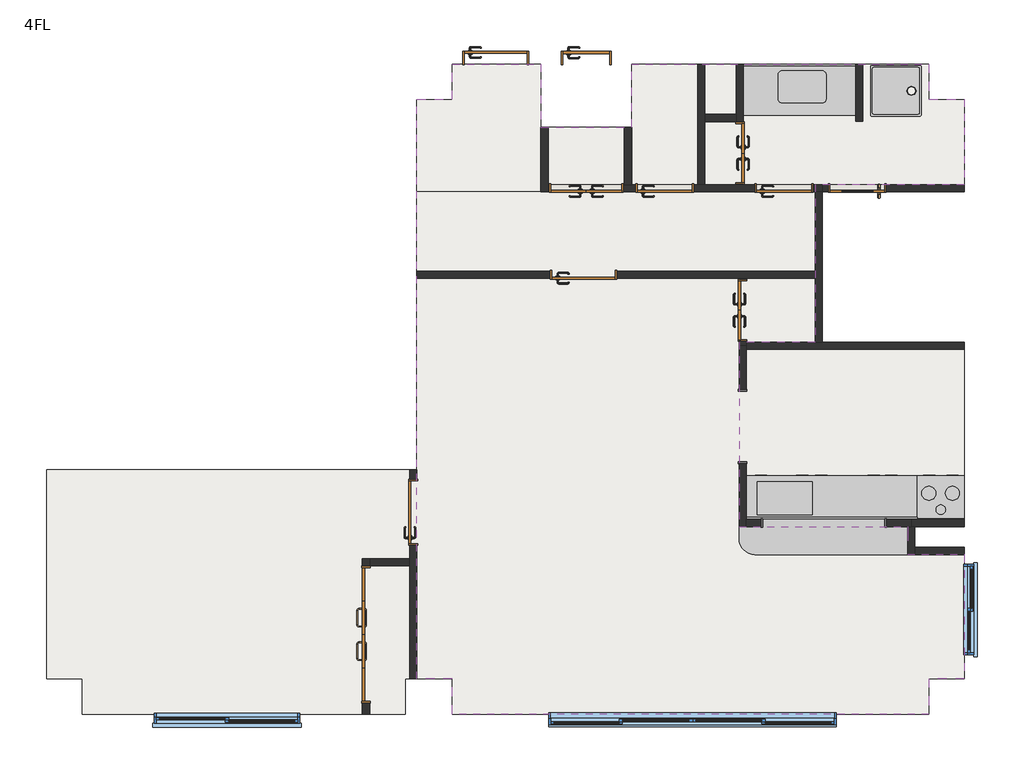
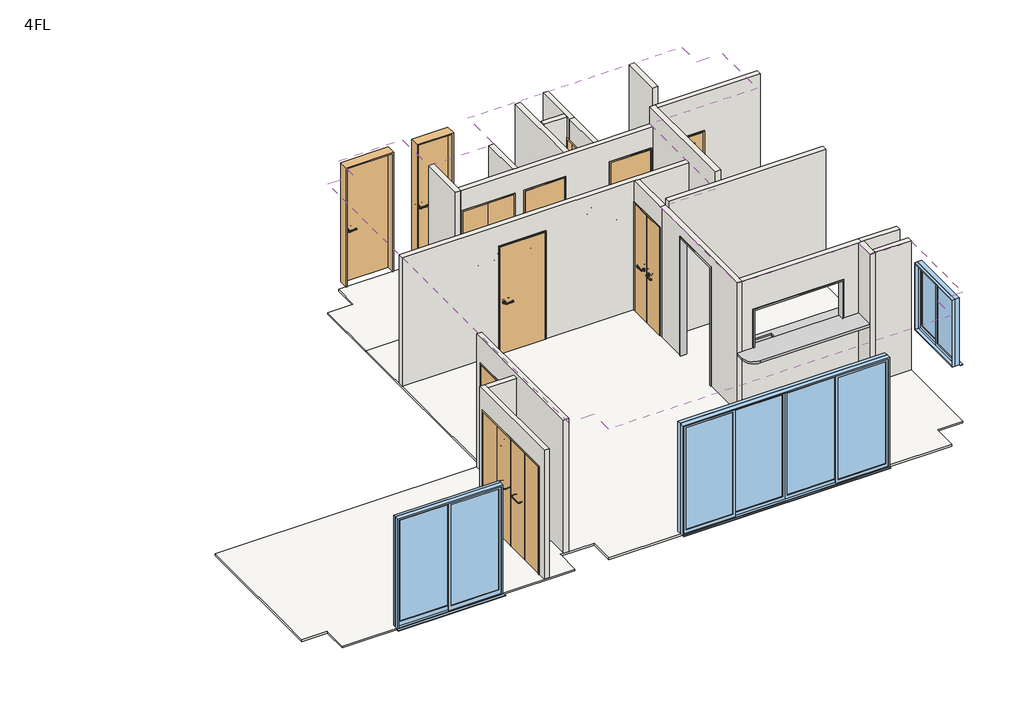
# One storey, incomplete: 21 walls, 11 doors, 4 slabs, 3 furniture elements, 3 windows, 2 flow terminals, 2 proxies, 1 covering.
"""IFC4 building model written with IfcOpenShell, lengths in millimetres."""

from ifc_helpers import new_model, si_unit, frame, origin, place, context, project, spatial, polyline, outline, extrude, faceted_brep, transform, mapped, element, save
from components import w1550h700_1b11893a, w900h2200_d33cf105, w1700h2000_7aeca4b8, w600h2200_149d3280, w700h2000_f851bcb9, w700h2000_6d93f0d2, w750h2000_bb28a540, w750h2000_6e5f9a8d, w800h2000_2b8736a8, w800h2000_587cbed2, w800h2200_05deb988, w900h2000_02bc9eed, flow_terminal_9508bbe0, flow_terminal_3a985401, furniture_17ae23b8, furniture_e3ce723a, furniture_1000mm_264b8faa, w1100h1200_97370016, w1800h2000_fa731eca, w3600_h2000_b2174b04

model = new_model("IFC4")

# Units and contexts
model_context = context("Model", 3, world=origin())
ifc_project = project(units=[si_unit("LENGTHUNIT", "METRE", prefix="MILLI")], contexts=[model_context])

# Site, building, storey
site = spatial("IfcSite", under=ifc_project)
building = spatial("IfcBuilding", under=site)
storey = spatial("IfcBuildingStorey", under=building, Name="4FL", Elevation=9695.0)

# Proxies
placement = place(None, origin())
w1550h700_shape = w1550h700_1b11893a(model_context)
element("IfcBuildingElementProxy", 1, Name="開口枠 - 鋼製 1 : W1550H700", ObjectType="開口枠 - 鋼製 1 : W1550H700", at=placement, inside=storey, context=model_context, shape_type="MappedRepresentation", body=[
    mapped(w1550h700_shape, transform((10065.0, 2500.0, 10786.8073289), x_axis=(-1.0, 0.0, 0.0), y_axis=(0.0, -1.0, 0.0), z_axis=(0.0, 0.0, 1.0))),
])
w900h2200_shape = w900h2200_d33cf105(model_context)
element("IfcBuildingElementProxy", 2, Name="開口枠 - 鋼製 1 : W900H2200", ObjectType="開口枠 - 鋼製 1 : W900H2200", at=placement, inside=storey, context=model_context, shape_type="MappedRepresentation", body=[
    mapped(w900h2200_shape, transform((8910.0, 3600.0, 9695.0), x_axis=(0.0, 1.0, 0.0), y_axis=(-1.0, 0.0, 0.0), z_axis=(0.0, 0.0, 1.0))),
])

# Covering
element("IfcCovering", 3, ObjectType="化粧石膏ボード", at=placement, inside=storey, context=model_context, shape_type="SweptSolid", body=[
    extrude(outline(polyline([(75.0, 525.0), (75.0, 3175.0), (4685.0, 3175.0), (4685.0, 525.0), (4625.0, 525.0), (4625.0, 75.0), (525.0, 75.0), (525.0, 525.0), (75.0, 525.0)])), frame((0.0, 0.0, 12095.0), z_axis=(0.0, 0.0, 1.0), x_axis=(1.0, 0.0, 0.0)), (0.0, 0.0, 1.0), 9.5),
    extrude(outline(polyline([(5225.0, 525.0), (4775.0, 525.0), (4775.0, 7875.0), (5225.0, 7875.0), (5225.0, 8325.0), (6350.0, 8325.0), (6350.0, 7525.0), (7500.0, 7525.0), (7500.0, 8325.0), (11275.0, 8325.0), (11275.0, 7875.0), (11725.0, 7875.0), (11725.0, 6795.0), (9830.0, 6795.0), (9830.0, 4795.0), (8865.0, 4795.0), (8865.0, 2455.0), (11005.0, 2455.0), (11005.0, 2100.0), (11725.0, 2100.0), (11725.0, 525.0), (11275.0, 525.0), (11275.0, 75.0), (5225.0, 75.0), (5225.0, 525.0)])), frame((0.0, 0.0, 12095.0), z_axis=(0.0, 0.0, 1.0), x_axis=(1.0, 0.0, 0.0)), (0.0, 0.0, 1.0), 9.5),
    extrude(outline(polyline([(11725.0, 2545.0), (8955.0, 2545.0), (8955.0, 4705.0), (11725.0, 4705.0), (11725.0, 2545.0)])), frame((0.0, 0.0, 12095.0), z_axis=(0.0, 0.0, 1.0), x_axis=(1.0, 0.0, 0.0)), (0.0, 0.0, 1.0), 9.5),
])

# Doors
w1700h2000_shape = w1700h2000_7aeca4b8(model_context)
element("IfcDoor", 4, ObjectType="木製折戸 : w1700h2000", at=placement, inside=storey, context=model_context, shape_type="MappedRepresentation", body=[
    mapped(w1700h2000_shape, transform((4130.0, 1085.0, 9695.0), x_axis=(0.0, 1.0, 0.0), y_axis=(-1.0, 0.0, 0.0), z_axis=(0.0, 0.0, 1.0))),
])
w600h2200_shape = w600h2200_149d3280(model_context)
element("IfcDoor", 5, ObjectType="片開き : w600h2200", at=placement, inside=storey, context=model_context, shape_type="MappedRepresentation", body=[
    mapped(w600h2200_shape, transform((6925.0, 8400.0, 9695.0), x_axis=(1.0, 0.0, 0.0), y_axis=(0.0, 1.0, 0.0), z_axis=(0.0, 0.0, 1.0))),
])
w700h2000_shape = w700h2000_f851bcb9(model_context)
element("IfcDoor", 6, ObjectType="片開き : w700h2000", at=placement, inside=storey, context=model_context, shape_type="MappedRepresentation", body=[
    mapped(w700h2000_shape, transform((7920.0, 6750.0, 9695.0), x_axis=(1.0, 0.0, 0.0), y_axis=(0.0, 1.0, 0.0), z_axis=(0.0, 0.0, 1.0))),
])
element("IfcDoor", 7, ObjectType="片開き : w700h2000", at=placement, inside=storey, context=model_context, shape_type="MappedRepresentation", body=[
    mapped(w700h2000_shape, transform((9435.0, 6750.0, 9695.0), x_axis=(1.0, 0.0, 0.0), y_axis=(0.0, 1.0, 0.0), z_axis=(0.0, 0.0, 1.0))),
])
w700h2000_2_shape = w700h2000_6d93f0d2(model_context)
element("IfcDoor", 8, ObjectType="片開き_ガラス四方框 : w700h2000", at=placement, inside=storey, context=model_context, shape_type="MappedRepresentation", body=[
    mapped(w700h2000_2_shape, transform((10365.0, 6750.0, 9695.0), x_axis=(-1.0, 0.0, 0.0), y_axis=(0.0, -1.0, 0.0), z_axis=(0.0, 0.0, 1.0))),
])
w750h2000_shape = w750h2000_bb28a540(model_context)
w750h2000_2_shape = w750h2000_6e5f9a8d(model_context)
element("IfcDoor", 9, ObjectType="両開き : w750h2000", at=placement, inside=storey, context=model_context, shape_type="MappedRepresentation", body=[
    mapped(w750h2000_shape, transform((8910.0, 5200.0, 9695.0), x_axis=(0.0, 1.0, 0.0), y_axis=(-1.0, 0.0, 0.0), z_axis=(0.0, 0.0, 1.0))),
    mapped(w750h2000_2_shape, transform((8910.0, 5200.0, 9695.0), x_axis=(0.0, 1.0, 0.0), y_axis=(-1.0, 0.0, 0.0), z_axis=(0.0, 0.0, 1.0))),
])
element("IfcDoor", 10, ObjectType="両開き : w750h2000", at=placement, inside=storey, context=model_context, shape_type="MappedRepresentation", body=[
    mapped(w750h2000_shape, transform((8875.0, 7195.0, 9695.0), x_axis=(0.0, -1.0, 0.0), y_axis=(1.0, 0.0, 0.0), z_axis=(0.0, 0.0, 1.0))),
    mapped(w750h2000_2_shape, transform((8875.0, 7195.0, 9695.0), x_axis=(0.0, -1.0, 0.0), y_axis=(1.0, 0.0, 0.0), z_axis=(0.0, 0.0, 1.0))),
])
w800h2000_shape = w800h2000_2b8736a8(model_context)
element("IfcDoor", 11, ObjectType="片開き : w800h2000", at=placement, inside=storey, context=model_context, shape_type="MappedRepresentation", body=[
    mapped(w800h2000_shape, transform((6890.0, 5650.0, 9695.0), x_axis=(1.0, 0.0, 0.0), y_axis=(0.0, 1.0, 0.0), z_axis=(0.0, 0.0, 1.0))),
])
w800h2000_2_shape = w800h2000_587cbed2(model_context)
element("IfcDoor", 12, ObjectType="片開き : w800h2000", at=placement, inside=storey, context=model_context, shape_type="MappedRepresentation", body=[
    mapped(w800h2000_2_shape, transform((4730.0, 2635.0, 9695.0), x_axis=(0.0, 1.0, 0.0), y_axis=(-1.0, 0.0, 0.0), z_axis=(0.0, 0.0, 1.0))),
])
w800h2200_shape = w800h2200_05deb988(model_context)
element("IfcDoor", 13, ObjectType="片開き : w800h2200", at=placement, inside=storey, context=model_context, shape_type="MappedRepresentation", body=[
    mapped(w800h2200_shape, transform((5775.0, 8400.0, 9695.0), x_axis=(1.0, 0.0, 0.0), y_axis=(0.0, 1.0, 0.0), z_axis=(0.0, 0.0, 1.0))),
])
w900h2000_shape = w900h2000_02bc9eed(model_context)
element("IfcDoor", 14, ObjectType="両開き : w900h2000", at=placement, inside=storey, context=model_context, shape_type="MappedRepresentation", body=[
    mapped(w750h2000_shape, transform((6925.0, 6750.0, 9695.0), x_axis=(-1.0, 0.0, 0.0), y_axis=(0.0, -1.0, 0.0), z_axis=(0.0, 0.0, 1.0))),
    mapped(w900h2000_shape, transform((6925.0, 6750.0, 9695.0), x_axis=(-1.0, 0.0, 0.0), y_axis=(0.0, -1.0, 0.0), z_axis=(0.0, 0.0, 1.0))),
])

# Flow terminals
flow_terminal_shape = flow_terminal_9508bbe0(model_context)
element("IfcFlowTerminal", 15, ObjectType="洗濯機パン : 洗濯機パン", at=placement, inside=storey, context=model_context, shape_type="MappedRepresentation", body=[
    mapped(flow_terminal_shape, transform((10855.0, 7985.0, 9695.0), x_axis=(1.0, 0.0, 0.0), y_axis=(0.0, 1.0, 0.0), z_axis=(0.0, 0.0, 1.0))),
])
flow_terminal_2_shape = flow_terminal_3a985401(model_context)
element("IfcFlowTerminal", 16, ObjectType="システムキッチンIH\u3000W2770 : システムキッチンIH\u3000W2770", at=placement, inside=storey, context=model_context, shape_type="MappedRepresentation", body=[
    mapped(flow_terminal_2_shape, transform((11725.0, 2545.0, 9695.0), x_axis=(1.0, 0.0, 0.0), y_axis=(0.0, 1.0, 0.0), z_axis=(0.0, 0.0, 1.0))),
])

# Furniture
furniture_shape = furniture_17ae23b8(model_context)
element("IfcFurniture", 17, ObjectType="キッチンカウンター : キッチンカウンター", at=placement, inside=storey, context=model_context, shape_type="MappedRepresentation", body=[
    mapped(furniture_shape, transform((11005.0, 2545.0, 9695.0), x_axis=(1.0, 0.0, 0.0), y_axis=(0.0, 1.0, 0.0), z_axis=(0.0, 0.0, 1.0))),
])
furniture_2_shape = furniture_e3ce723a(model_context)
element("IfcFurniture", 18, ObjectType="洗面カウンタ 正方形 シンク開口 - 3D : 奥行き 650 mm", at=placement, inside=storey, context=model_context, shape_type="MappedRepresentation", body=[
    mapped(furniture_2_shape, transform((10120.4622951, 8325.0, 9695.0), x_axis=(1.0, 0.0, 0.0), y_axis=(0.0, 1.0, 0.0), z_axis=(0.0, 0.0, 1.0))),
])
furniture_1000mm_shape = furniture_1000mm_264b8faa(model_context)
element("IfcFurniture", 19, ObjectType="化粧台 - 両開きドア シンク ユニット - 3D : 1000mm", at=placement, inside=storey, context=model_context, shape_type="MappedRepresentation", body=[
    mapped(furniture_1000mm_shape, transform((9613.7622951, 8325.0, 9695.0), x_axis=(1.0, 0.0, 0.0), y_axis=(0.0, 1.0, 0.0), z_axis=(0.0, 0.0, 1.0))),
])

# Slabs
element("IfcSlab", 20, ObjectType="磁器タイル", at=placement, inside=storey, context=model_context, shape_type="SweptSolid", body=[
    extrude(outline(polyline([(5225.0, 7875.0), (5225.0, 8325.0), (6350.0, 8325.0), (6350.0, 6705.0), (4775.0, 6705.0), (4775.0, 7875.0), (5225.0, 7875.0)])), frame((0.0, 0.0, 9660.0), z_axis=(0.0, 0.0, 1.0), x_axis=(1.0, 0.0, 0.0)), (0.0, 0.0, 1.0), 35.0),
])
element("IfcSlab", 21, ObjectType="フローリング", at=placement, inside=storey, context=model_context, shape_type="SweptSolid", body=[
    extrude(outline(polyline([(4775.0, 3175.0), (4775.0, 6705.0), (6440.0, 6705.0), (6440.0, 7525.0), (7410.0, 7525.0), (7410.0, 6705.0), (7500.0, 6705.0), (7500.0, 8325.0), (8340.0, 8325.0), (8340.0, 6705.0), (9830.0, 6705.0), (9830.0, 4705.0), (11725.0, 4705.0), (11725.0, 2545.0), (11005.0, 2545.0), (11005.0, 2100.0), (11725.0, 2100.0), (11725.0, 525.0), (11275.0, 525.0), (11275.0, 75.0), (5225.0, 75.0), (5225.0, 525.0), (4625.0, 525.0), (4625.0, 75.0), (525.0, 75.0), (525.0, 525.0), (75.0, 525.0), (75.0, 3175.0), (4775.0, 3175.0)])), frame((0.0, 0.0, 9660.0), z_axis=(0.0, 0.0, 1.0), x_axis=(1.0, 0.0, 0.0)), (0.0, 0.0, 1.0), 35.0),
])
element("IfcSlab", 22, ObjectType="クッションフロアシート", at=placement, inside=storey, context=model_context, shape_type="SweptSolid", body=[
    extrude(outline(polyline([(11275.0, 8325.0), (11275.0, 7875.0), (11725.0, 7875.0), (11725.0, 6795.0), (8430.0, 6795.0), (8430.0, 7685.0), (8830.0, 7685.0), (8830.0, 8325.0), (11275.0, 8325.0)])), frame((0.0, 0.0, 9480.0), z_axis=(0.0, 0.0, 1.0), x_axis=(1.0, 0.0, 0.0)), (0.0, 0.0, 1.0), 215.0),
])
element("IfcSlab", 23, ObjectType="防水モルタル", at=placement, inside=storey, context=model_context, shape_type="SweptSolid", body=[
    extrude(outline(polyline([(8830.0, 8325.0), (8830.0, 7685.0), (8430.0, 7685.0), (8430.0, 8325.0), (8830.0, 8325.0)])), frame((0.0, 0.0, 9660.0), z_axis=(0.0, 0.0, 1.0), x_axis=(1.0, 0.0, 0.0)), (0.0, 0.0, 1.0), 35.0),
])

# Walls
element("IfcWall", 24, ObjectType="標準-90mm", at=placement, inside=storey, context=model_context, shape_type="Brep", body=[
    faceted_brep([(4685.0, 3055.0, 9695.0), (4685.0, 3055.0, 11715.0), (4685.0, 2215.0, 11715.0), (4685.0, 2215.0, 9695.0), (4685.0, 2045.0, 9695.0), (4685.0, 1955.0, 9695.0), (4685.0, 525.0, 9695.0), (4685.0, 525.0, 12180.0), (4685.0, 3175.0, 12180.0), (4685.0, 3175.0, 9695.0), (4775.0, 3055.0, 11715.0), (4775.0, 3055.0, 9695.0), (4775.0, 3175.0, 9695.0), (4775.0, 3175.0, 12180.0), (4775.0, 525.0, 12180.0), (4775.0, 525.0, 9695.0), (4775.0, 2215.0, 9695.0), (4775.0, 2215.0, 11715.0)], [[[0, 1, 2, 3, 4, 5, 6, 7, 8, 9]], [[10, 11, 12, 13, 14, 15, 16, 17]], [[11, 0, 9, 12]], [[3, 16, 15, 6, 5, 4]], [[13, 8, 7, 14]], [[11, 10, 1, 0]], [[17, 16, 3, 2]], [[10, 17, 2, 1]], [[9, 8, 13, 12]], [[7, 6, 15, 14]]]),
])
element("IfcWall", 25, ObjectType="標準-90mm", at=placement, inside=storey, context=model_context, shape_type="Brep", body=[
    faceted_brep([(4175.0, 75.0, 9695.0), (4175.0, 215.0, 9695.0), (4175.0, 215.0, 11715.0), (4175.0, 1955.0, 11715.0), (4175.0, 1955.0, 9695.0), (4175.0, 2045.0, 9695.0), (4175.0, 2045.0, 12095.0), (4175.0, 1955.0, 12095.0), (4175.0, 75.0, 12095.0), (4085.0, 215.0, 11715.0), (4085.0, 215.0, 9695.0), (4085.0, 75.0, 9695.0), (4085.0, 75.0, 12095.0), (4085.0, 2045.0, 12095.0), (4085.0, 2045.0, 9695.0), (4085.0, 1955.0, 9695.0), (4085.0, 1955.0, 11715.0)], [[[0, 1, 2, 3, 4, 5, 6, 7, 8]], [[9, 10, 11, 12, 13, 14, 15, 16]], [[15, 14, 5, 4]], [[11, 10, 1, 0]], [[8, 7, 6, 13, 12]], [[6, 5, 14, 13]], [[4, 3, 16, 15]], [[2, 1, 10, 9]], [[3, 2, 9, 16]], [[0, 8, 12, 11]]]),
])
element("IfcWall", 26, ObjectType="標準-90mm", at=placement, inside=storey, context=model_context, shape_type="SweptSolid", body=[
    extrude(outline(polyline([(4685.0, 1955.0), (4175.0, 1955.0), (4175.0, 2045.0), (4685.0, 2045.0), (4685.0, 1955.0)])), frame((0.0, 0.0, 9695.0), z_axis=(0.0, 0.0, 1.0), x_axis=(1.0, 0.0, 0.0)), (0.0, 0.0, 1.0), 2400.0),
])
element("IfcWall", 27, ObjectType="標準-90mm", at=placement, inside=storey, context=model_context, shape_type="Brep", body=[
    faceted_brep([(6350.0, 7525.0, 9660.0), (6350.0, 6705.0, 9660.0), (6350.0, 6705.0, 12095.0), (6350.0, 7525.0, 12095.0), (6440.0, 7525.0, 9660.0), (6440.0, 7525.0, 12095.0), (6440.0, 6795.0, 12095.0), (6440.0, 6705.0, 12095.0), (6440.0, 6705.0, 9660.0), (6440.0, 6795.0, 9660.0)], [[[0, 1, 2, 3]], [[4, 5, 6, 7, 8, 9]], [[1, 0, 4, 9, 8]], [[3, 2, 7, 6, 5]], [[2, 1, 8, 7]], [[0, 3, 5, 4]]]),
])
element("IfcWall", 28, ObjectType="標準-90mm", at=placement, inside=storey, context=model_context, shape_type="SweptSolid", body=[
    extrude(outline(polyline([(7410.0, 6795.0), (7410.0, 7525.0), (7500.0, 7525.0), (7500.0, 6795.0), (7410.0, 6795.0)])), frame((0.0, 0.0, 9695.0), z_axis=(0.0, 0.0, 1.0), x_axis=(1.0, 0.0, 0.0)), (0.0, 0.0, 1.0), 2400.0),
])
element("IfcWall", 29, ObjectType="標準-90mm", at=placement, inside=storey, context=model_context, shape_type="Brep", body=[
    faceted_brep([(6440.0, 6705.0, 9660.0), (9830.0, 6705.0, 9660.0), (9920.0, 6705.0, 9660.0), (9920.0, 6705.0, 12095.0), (9830.0, 6705.0, 12095.0), (6440.0, 6705.0, 12095.0), (6455.0, 6705.0, 11715.0), (7395.0, 6705.0, 11715.0), (7395.0, 6705.0, 9695.0), (6455.0, 6705.0, 9695.0), (8290.0, 6705.0, 11715.0), (8290.0, 6705.0, 9695.0), (7550.0, 6705.0, 9695.0), (7550.0, 6705.0, 11715.0), (9805.0, 6705.0, 11715.0), (9805.0, 6705.0, 9695.0), (9065.0, 6705.0, 9695.0), (9065.0, 6705.0, 11715.0), (6440.0, 6795.0, 9660.0), (6440.0, 6795.0, 12095.0), (7410.0, 6795.0, 12095.0), (7500.0, 6795.0, 12095.0), (8830.0, 6795.0, 12095.0), (8920.0, 6795.0, 12095.0), (9830.0, 6795.0, 12095.0), (9920.0, 6795.0, 12095.0), (9920.0, 6795.0, 9660.0), (8430.0, 6795.0, 9660.0), (8340.0, 6795.0, 9660.0), (6455.0, 6795.0, 11715.0), (6455.0, 6795.0, 9695.0), (7395.0, 6795.0, 9695.0), (7395.0, 6795.0, 11715.0), (8290.0, 6795.0, 11715.0), (7550.0, 6795.0, 11715.0), (7550.0, 6795.0, 9695.0), (8290.0, 6795.0, 9695.0), (9805.0, 6795.0, 11715.0), (9065.0, 6795.0, 11715.0), (9065.0, 6795.0, 9695.0), (9805.0, 6795.0, 9695.0)], [[[0, 1, 2, 3, 4, 5], [6, 7, 8, 9], [10, 11, 12, 13], [14, 15, 16, 17]], [[18, 19, 20, 21, 22, 23, 24, 25, 26, 27, 28], [29, 30, 31, 32], [33, 34, 35, 36], [37, 38, 39, 40]], [[2, 1, 0, 18, 28, 27, 26]], [[5, 4, 3, 25, 24, 23, 22, 21, 20, 19]], [[0, 5, 19, 18]], [[3, 2, 26, 25]], [[30, 29, 6, 9]], [[31, 30, 9, 8]], [[32, 31, 8, 7]], [[29, 32, 7, 6]], [[11, 10, 33, 36]], [[12, 11, 36, 35]], [[13, 12, 35, 34]], [[10, 13, 34, 33]], [[15, 14, 37, 40]], [[16, 15, 40, 39]], [[17, 16, 39, 38]], [[14, 17, 38, 37]]]),
])
element("IfcWall", 30, ObjectType="標準-90mm", at=placement, inside=storey, context=model_context, shape_type="SweptSolid", body=[
    extrude(outline(polyline([(8430.0, 8325.0), (8430.0, 6795.0), (8340.0, 6795.0), (8340.0, 8325.0), (8430.0, 8325.0)])), frame((0.0, 0.0, 9660.0), z_axis=(0.0, 0.0, 1.0), x_axis=(1.0, 0.0, 0.0)), (0.0, 0.0, 1.0), 2400.0),
])
element("IfcWall", 31, ObjectType="標準-90mm", at=placement, inside=storey, context=model_context, shape_type="SweptSolid", body=[
    extrude(outline(polyline([(8830.0, 7595.0), (8430.0, 7595.0), (8430.0, 7685.0), (8830.0, 7685.0), (8830.0, 7595.0)])), frame((0.0, 0.0, 9695.0), z_axis=(0.0, 0.0, 1.0), x_axis=(1.0, 0.0, 0.0)), (0.0, 0.0, 1.0), 2400.0),
])
element("IfcWall", 32, ObjectType="標準-90mm", at=placement, inside=storey, context=model_context, shape_type="Brep", body=[
    faceted_brep([(8830.0, 7525.0, 12095.0), (8830.0, 7595.0, 12095.0), (8830.0, 7685.0, 12095.0), (8830.0, 8325.0, 12095.0), (8830.0, 8325.0, 9695.0), (8830.0, 7685.0, 9695.0), (8830.0, 7595.0, 9695.0), (8830.0, 7590.0, 9695.0), (8830.0, 7590.0, 11715.0), (8830.0, 7525.0, 11715.0), (8920.0, 8325.0, 12095.0), (8920.0, 7525.0, 12095.0), (8920.0, 7525.0, 11715.0), (8920.0, 7590.0, 11715.0), (8920.0, 7590.0, 9695.0), (8920.0, 8325.0, 9695.0)], [[[0, 1, 2, 3, 4, 5, 6, 7, 8, 9]], [[10, 11, 12, 13, 14, 15]], [[4, 15, 14, 7, 6, 5]], [[11, 0, 9, 12]], [[3, 2, 1, 0, 11, 10]], [[13, 8, 7, 14]], [[8, 13, 12, 9]], [[4, 3, 10, 15]]]),
])
element("IfcWall", 33, ObjectType="標準-90mm", at=placement, inside=storey, context=model_context, shape_type="SweptSolid", body=[
    extrude(outline(polyline([(10345.0, 7600.0), (10345.0, 8325.0), (10435.0, 8325.0), (10435.0, 7600.0), (10345.0, 7600.0)])), frame((0.0, 0.0, 9695.0), z_axis=(0.0, 0.0, 1.0), x_axis=(1.0, 0.0, 0.0)), (0.0, 0.0, 1.0), 2400.0),
])
element("IfcWall", 34, ObjectType="標準-90mm", at=placement, inside=storey, context=model_context, shape_type="Brep", body=[
    faceted_brep([(11725.0, 4795.0, 9695.0), (8955.0, 4795.0, 9695.0), (8955.0, 4795.0, 12095.0), (8955.0, 4795.0, 12104.5), (8955.0, 4795.0, 12230.0), (11725.0, 4795.0, 12230.0), (11725.0, 4705.0, 9695.0), (11725.0, 4705.0, 12230.0), (8955.0, 4705.0, 12230.0), (8955.0, 4705.0, 9695.0), (8955.0, 4750.0, 9695.0)], [[[0, 1, 2, 3, 4, 5]], [[6, 7, 8, 9]], [[1, 0, 6, 9, 10]], [[5, 4, 8, 7]], [[1, 10, 9, 8, 4, 3, 2]], [[0, 5, 7, 6]]]),
])
element("IfcWall", 35, ObjectType="標準-90mm", at=placement, inside=storey, context=model_context, shape_type="Brep", body=[
    faceted_brep([(8865.0, 4805.0, 11715.0), (8865.0, 4805.0, 9695.0), (8865.0, 4750.0, 9695.0), (8865.0, 4750.0, 12095.0), (8865.0, 4795.0, 12095.0), (8865.0, 5605.0, 12095.0), (8865.0, 5605.0, 9695.0), (8865.0, 5595.0, 9695.0), (8865.0, 5595.0, 11715.0), (8955.0, 4750.0, 9695.0), (8955.0, 4795.0, 9695.0), (8955.0, 4805.0, 9695.0), (8955.0, 4805.0, 11715.0), (8955.0, 5595.0, 11715.0), (8955.0, 5595.0, 9695.0), (8955.0, 5605.0, 9695.0), (8955.0, 5605.0, 12095.0), (8955.0, 4795.0, 12095.0), (8955.0, 4750.0, 12095.0)], [[[0, 1, 2, 3, 4, 5, 6, 7, 8]], [[9, 10, 11, 12, 13, 14, 15, 16, 17, 18]], [[7, 6, 15, 14]], [[2, 1, 11, 10, 9]], [[3, 2, 9, 18]], [[5, 4, 3, 18, 17, 16]], [[6, 5, 16, 15]], [[14, 13, 8, 7]], [[12, 11, 1, 0]], [[13, 12, 0, 8]]]),
])
element("IfcWall", 36, ObjectType="標準-90mm", at=placement, inside=storey, context=model_context, shape_type="Brep", body=[
    faceted_brep([(8955.0, 2455.0, 9695.0), (11005.0, 2455.0, 9695.0), (11050.0, 2455.0, 9695.0), (11050.0, 2455.0, 12104.5), (11005.0, 2455.0, 12104.5), (8955.0, 2455.0, 12104.5), (10740.0, 2455.0, 11511.8073289), (10740.0, 2455.0, 10786.8073289), (9140.0, 2455.0, 10786.8073289), (9140.0, 2455.0, 11511.8073289), (8955.0, 2545.0, 9695.0), (8955.0, 2545.0, 12104.5), (11050.0, 2545.0, 12104.5), (11050.0, 2545.0, 9695.0), (10740.0, 2545.0, 11511.8073289), (9140.0, 2545.0, 11511.8073289), (9140.0, 2545.0, 10786.8073289), (10740.0, 2545.0, 10786.8073289)], [[[0, 1, 2, 3, 4, 5], [6, 7, 8, 9]], [[10, 11, 12, 13], [14, 15, 16, 17]], [[2, 1, 0, 10, 13]], [[3, 2, 13, 12]], [[5, 4, 3, 12, 11]], [[0, 5, 11, 10]], [[7, 6, 14, 17]], [[8, 7, 17, 16]], [[9, 8, 16, 15]], [[6, 9, 15, 14]]]),
])
element("IfcWall", 37, ObjectType="標準-90mm", at=placement, inside=storey, context=model_context, shape_type="Brep", body=[
    faceted_brep([(11005.0, 2455.0, 9695.0), (11005.0, 2100.0, 9695.0), (11005.0, 2100.0, 12104.5), (11005.0, 2455.0, 12104.5), (11095.0, 2455.0, 9695.0), (11095.0, 2455.0, 12104.5), (11095.0, 2190.0, 12104.5), (11095.0, 2100.0, 12104.5), (11095.0, 2100.0, 9695.0), (11095.0, 2190.0, 9695.0), (11050.0, 2455.0, 9695.0), (11050.0, 2455.0, 12104.5)], [[[0, 1, 2, 3]], [[4, 5, 6, 7, 8, 9]], [[1, 0, 10, 4, 9, 8]], [[3, 2, 7, 6, 5, 11]], [[2, 1, 8, 7]], [[0, 3, 11, 5, 4, 10]]]),
])
element("IfcWall", 38, ObjectType="標準-90mm", at=placement, inside=storey, context=model_context, shape_type="SweptSolid", body=[
    extrude(outline(polyline([(11725.0, 2100.0), (11095.0, 2100.0), (11095.0, 2190.0), (11725.0, 2190.0), (11725.0, 2100.0)])), frame((0.0, 0.0, 9695.0), z_axis=(0.0, 0.0, 1.0), x_axis=(1.0, 0.0, 0.0)), (0.0, 0.0, 1.0), 2409.5),
])
element("IfcWall", 39, ObjectType="標準-90mm", at=placement, inside=storey, context=model_context, shape_type="Brep", body=[
    faceted_brep([(9830.0, 6705.0, 9660.0), (9830.0, 4795.0, 9660.0), (9830.0, 4795.0, 12420.0), (9830.0, 6795.0, 12420.0), (9830.0, 6795.0, 12095.0), (9830.0, 6705.0, 12095.0), (9920.0, 6705.0, 9660.0), (9920.0, 6705.0, 12095.0), (9920.0, 6795.0, 12095.0), (9920.0, 6795.0, 12420.0), (9920.0, 6705.0, 12420.0), (9920.0, 4795.0, 12420.0), (9920.0, 4795.0, 9660.0)], [[[0, 1, 2, 3, 4, 5]], [[6, 7, 8, 9, 10, 11, 12]], [[1, 0, 6, 12]], [[3, 2, 11, 10, 9]], [[2, 1, 12, 11]], [[4, 8, 7, 5]], [[0, 5, 7, 6]], [[4, 3, 9, 8]]]),
])
element("IfcWall", 40, ObjectType="標準-90mm", at=placement, inside=storey, context=model_context, shape_type="Brep", body=[
    faceted_brep([(6470.0, 5695.0, 11715.0), (6470.0, 5695.0, 9695.0), (4775.0, 5695.0, 9695.0), (4775.0, 5695.0, 12095.0), (9830.0, 5695.0, 12095.0), (9830.0, 5695.0, 9695.0), (7310.0, 5695.0, 9695.0), (7310.0, 5695.0, 11715.0), (4775.0, 5605.0, 9695.0), (6470.0, 5605.0, 9695.0), (6470.0, 5605.0, 11715.0), (7310.0, 5605.0, 11715.0), (7310.0, 5605.0, 9695.0), (8865.0, 5605.0, 9695.0), (8955.0, 5605.0, 9695.0), (9830.0, 5605.0, 9695.0), (9830.0, 5605.0, 12095.0), (8955.0, 5605.0, 12095.0), (8865.0, 5605.0, 12095.0), (4775.0, 5605.0, 12095.0)], [[[0, 1, 2, 3, 4, 5, 6, 7]], [[8, 9, 10, 11, 12, 13, 14, 15, 16, 17, 18, 19]], [[6, 5, 15, 14, 13, 12]], [[2, 1, 9, 8]], [[4, 3, 19, 18, 17, 16]], [[5, 4, 16, 15]], [[12, 11, 7, 6]], [[10, 9, 1, 0]], [[11, 10, 0, 7]], [[3, 2, 8, 19]]]),
])
element("IfcWall", 41, ObjectType="標準-90mm", at=placement, inside=storey, context=model_context, shape_type="Brep", body=[
    faceted_brep([(9920.0, 6705.0, 9480.0), (11725.0, 6705.0, 9480.0), (11725.0, 6705.0, 12420.0), (9920.0, 6705.0, 12420.0), (9920.0, 6705.0, 12095.0), (9920.0, 6705.0, 9660.0), (9995.0, 6705.0, 11715.0), (10735.0, 6705.0, 11715.0), (10735.0, 6705.0, 9695.0), (9995.0, 6705.0, 9695.0), (9920.0, 6795.0, 9480.0), (9920.0, 6795.0, 9660.0), (9920.0, 6795.0, 12095.0), (9920.0, 6795.0, 12420.0), (11725.0, 6795.0, 12420.0), (11725.0, 6795.0, 9480.0), (9995.0, 6795.0, 11715.0), (9995.0, 6795.0, 9695.0), (10735.0, 6795.0, 9695.0), (10735.0, 6795.0, 11715.0)], [[[0, 1, 2, 3, 4, 5], [6, 7, 8, 9]], [[10, 11, 12, 13, 14, 15], [16, 17, 18, 19]], [[1, 0, 10, 15]], [[3, 2, 14, 13]], [[0, 5, 4, 3, 13, 12, 11, 10]], [[17, 16, 6, 9]], [[18, 17, 9, 8]], [[19, 18, 8, 7]], [[16, 19, 7, 6]], [[1, 15, 14, 2]]]),
])
element("IfcWall", 42, ObjectType="標準-90mm", at=placement, inside=storey, context=model_context, shape_type="SweptSolid", body=[
    extrude(outline(polyline([(6795.0, 12095.0), (7525.0, 12095.0), (7525.0, 11715.0), (6800.0, 11715.0), (6800.0, 9695.0), (6795.0, 9695.0), (6795.0, 12095.0)])), frame((8830.0, 0.0, 0.0), z_axis=(1.0, 0.0, 0.0), x_axis=(0.0, 1.0, 0.0)), (0.0, 0.0, 1.0), 90.0),
])
element("IfcWall", 43, ObjectType="標準-90mm", at=placement, inside=storey, context=model_context, shape_type="Brep", body=[
    faceted_brep([(11050.0, 2455.0, 9695.0), (11095.0, 2455.0, 9695.0), (11725.0, 2455.0, 9695.0), (11725.0, 2455.0, 12104.5), (11095.0, 2455.0, 12104.5), (11050.0, 2455.0, 12104.5), (11050.0, 2545.0, 9695.0), (11050.0, 2545.0, 12104.5), (11725.0, 2545.0, 12104.5), (11725.0, 2545.0, 9695.0)], [[[0, 1, 2, 3, 4, 5]], [[6, 7, 8, 9]], [[2, 1, 0, 6, 9]], [[5, 4, 3, 8, 7]], [[0, 5, 7, 6]], [[3, 2, 9, 8]]]),
])
element("IfcWall", 44, ObjectType="標準-90mm", at=placement, inside=storey, context=model_context, shape_type="Brep", body=[
    faceted_brep([(8865.0, 4750.0, 9695.0), (8865.0, 4200.0, 9695.0), (8865.0, 4200.0, 11920.0), (8865.0, 3250.0, 11920.0), (8865.0, 3250.0, 9695.0), (8865.0, 2455.0, 9695.0), (8865.0, 2455.0, 12104.5), (8865.0, 4795.0, 12104.5), (8865.0, 4795.0, 12095.0), (8865.0, 4750.0, 12095.0), (8955.0, 4200.0, 11920.0), (8955.0, 4200.0, 9695.0), (8955.0, 4705.0, 9695.0), (8955.0, 4750.0, 9695.0), (8955.0, 4750.0, 12095.0), (8955.0, 4795.0, 12095.0), (8955.0, 4795.0, 12104.5), (8955.0, 2545.0, 12104.5), (8955.0, 2455.0, 12104.5), (8955.0, 2455.0, 9695.0), (8955.0, 2545.0, 9695.0), (8955.0, 3250.0, 9695.0), (8955.0, 3250.0, 11920.0)], [[[0, 1, 2, 3, 4, 5, 6, 7, 8, 9]], [[10, 11, 12, 13, 14, 15, 16, 17, 18, 19, 20, 21, 22]], [[13, 12, 11, 1, 0]], [[21, 20, 19, 5, 4]], [[7, 6, 18, 17, 16]], [[6, 5, 19, 18]], [[3, 2, 10, 22]], [[2, 1, 11, 10]], [[4, 3, 22, 21]], [[0, 9, 14, 13]], [[8, 15, 14, 9]], [[8, 7, 16, 15]]]),
])

# Windows
w1100h1200_shape = w1100h1200_97370016(model_context)
element("IfcWindow", 45, ObjectType="引違い腰窓_2枚 : W1100H1200", at=placement, inside=storey, context=model_context, shape_type="MappedRepresentation", body=[
    mapped(w1100h1200_shape, transform((11800.0, 1400.0, 9745.0), x_axis=(0.0, -1.0, 0.0), y_axis=(1.0, 0.0, 0.0), z_axis=(0.0, 0.0, 1.0))),
])
w1800h2000_shape = w1800h2000_fa731eca(model_context)
element("IfcWindow", 46, ObjectType="引違い掃出窓_2枚 : W1800H2000", at=placement, inside=storey, context=model_context, shape_type="MappedRepresentation", body=[
    mapped(w1800h2000_shape, transform((2365.0, 0.0, 9780.0), x_axis=(-1.0, 0.0, 0.0), y_axis=(0.0, -1.0, 0.0), z_axis=(0.0, 0.0, 1.0))),
])
w3600_h2000_shape = w3600_h2000_b2174b04(model_context)
element("IfcWindow", 47, ObjectType="窓 - 引違い掃出 4 枚 2 溝 - 内付 : w3600 h2000", at=placement, inside=storey, context=model_context, shape_type="MappedRepresentation", body=[
    mapped(w3600_h2000_shape, transform((8275.0, 0.0, 9755.0), x_axis=(-1.0, 0.0, 0.0), y_axis=(0.0, -1.0, 0.0), z_axis=(0.0, 0.0, 1.0))),
])

save(model, "model.ifc")
